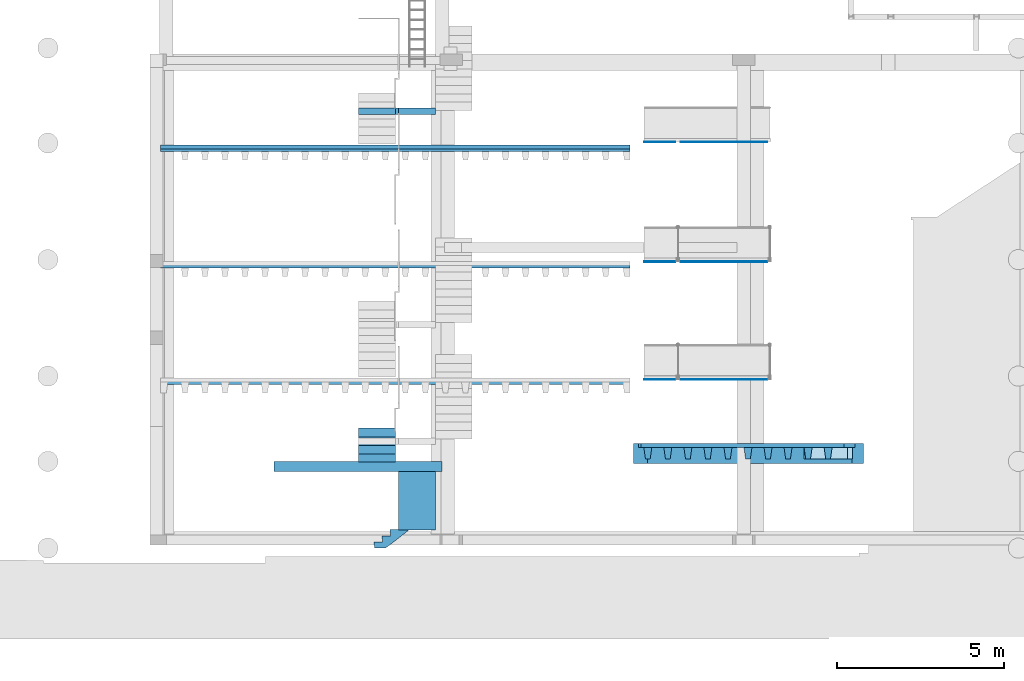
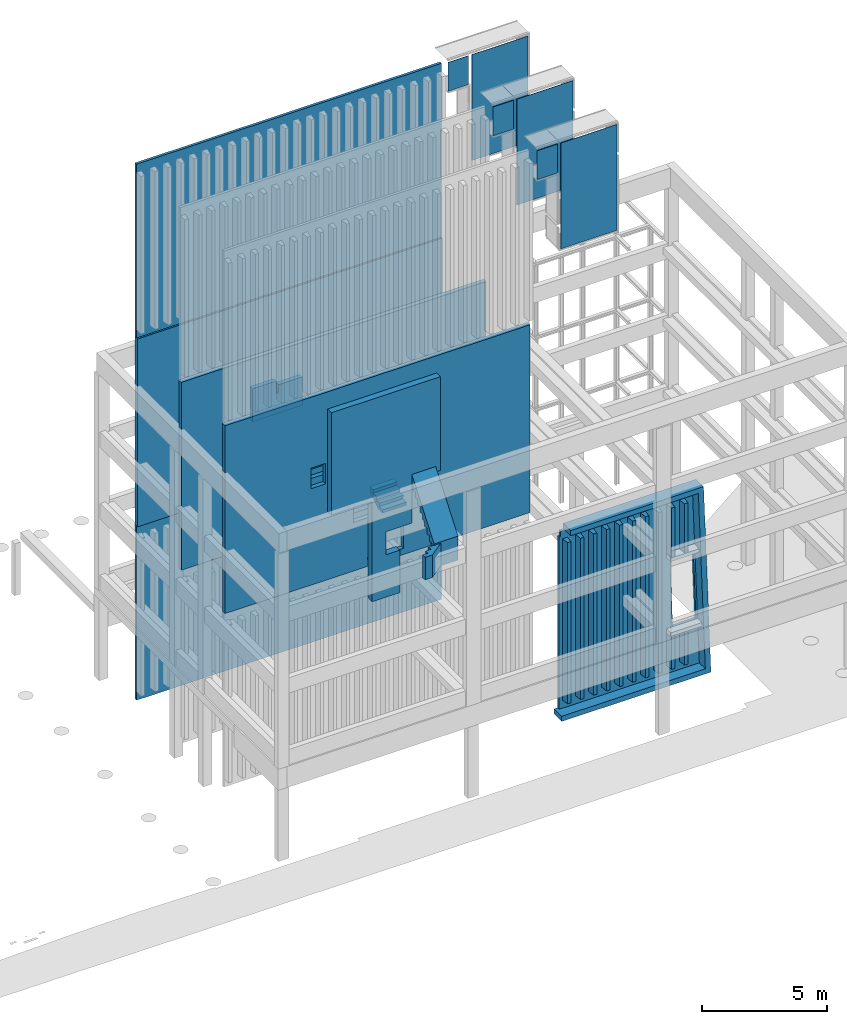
# One storey, part 4 of 15: 29 slabs, 2 stairs.
"""IFC2X3 building model written with IfcOpenShell, lengths in metres."""

from ifc_helpers import new_model, entity, si_unit, converted_unit, derived_unit, money_unit, direction, frame, origin_with_axes, place, context, subcontext, project, spatial, faceted_brep, material, type_object, element, save


model = new_model("IFC2X3")

# Units and contexts
model_context = context("Model", 3, precision=1e-05, world=origin_with_axes(), true_north=direction((0.0, 1.0)))
body_context = subcontext(model_context, "Body", "Model", "MODEL_VIEW", scale=1.0)
ifc_project = project(units=[si_unit("LENGTHUNIT", "METRE"), si_unit("AREAUNIT", "SQUARE_METRE"), si_unit("VOLUMEUNIT", "CUBIC_METRE"), si_unit("ABSORBEDDOSEUNIT", "GRAY"), si_unit("AMOUNTOFSUBSTANCEUNIT", "MOLE"), si_unit("DOSEEQUIVALENTUNIT", "SIEVERT"), si_unit("ELECTRICCAPACITANCEUNIT", "FARAD"), si_unit("ELECTRICCHARGEUNIT", "COULOMB"), si_unit("ELECTRICCONDUCTANCEUNIT", "SIEMENS"), si_unit("ELECTRICCURRENTUNIT", "AMPERE"), si_unit("ELECTRICRESISTANCEUNIT", "OHM"), si_unit("ELECTRICVOLTAGEUNIT", "VOLT"), si_unit("ENERGYUNIT", "JOULE"), si_unit("FORCEUNIT", "NEWTON"), si_unit("FREQUENCYUNIT", "HERTZ"), si_unit("ILLUMINANCEUNIT", "LUX"), si_unit("INDUCTANCEUNIT", "HENRY"), si_unit("LUMINOUSFLUXUNIT", "LUMEN"), si_unit("LUMINOUSINTENSITYUNIT", "CANDELA"), si_unit("MAGNETICFLUXDENSITYUNIT", "TESLA"), si_unit("MAGNETICFLUXUNIT", "WEBER"), si_unit("MASSUNIT", "GRAM"), converted_unit("PLANEANGLEUNIT", "degree", entity("IfcReal", 0.0174532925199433), si_unit("PLANEANGLEUNIT", "RADIAN"), dimensions=[0, 0, 0, 0, 0, 0, 0]), si_unit("POWERUNIT", "WATT"), si_unit("PRESSUREUNIT", "PASCAL"), si_unit("RADIOACTIVITYUNIT", "BECQUEREL"), si_unit("SOLIDANGLEUNIT", "STERADIAN"), si_unit("THERMODYNAMICTEMPERATUREUNIT", "KELVIN"), si_unit("TIMEUNIT", "SECOND"), derived_unit("ACCELERATIONUNIT", [(si_unit("LENGTHUNIT", "METRE"), 1), (si_unit("TIMEUNIT", "SECOND"), -2)]), derived_unit("ANGULARVELOCITYUNIT", [(converted_unit("PLANEANGLEUNIT", "degree", entity("IfcReal", 0.0174532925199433), si_unit("PLANEANGLEUNIT", "RADIAN"), dimensions=[0, 0, 0, 0, 0, 0, 0]), 1), (si_unit("TIMEUNIT", "SECOND"), -1)]), derived_unit("CURVATUREUNIT", [(converted_unit("PLANEANGLEUNIT", "degree", entity("IfcReal", 0.0174532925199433), si_unit("PLANEANGLEUNIT", "RADIAN"), dimensions=[0, 0, 0, 0, 0, 0, 0]), 1), (si_unit("LENGTHUNIT", "METRE"), -1)]), derived_unit("DYNAMICVISCOSITYUNIT", [(si_unit("PRESSUREUNIT", "PASCAL"), 1), (si_unit("TIMEUNIT", "SECOND"), 1)]), derived_unit("HEATFLUXDENSITYUNIT", [(si_unit("POWERUNIT", "WATT"), 1), (si_unit("LENGTHUNIT", "METRE"), -2)]), derived_unit("HEATINGVALUEUNIT", [(si_unit("ENERGYUNIT", "JOULE"), 1), (si_unit("MASSUNIT", "GRAM"), -1)]), derived_unit("INTEGERCOUNTRATEUNIT", [(si_unit("TIMEUNIT", "SECOND"), -1)]), derived_unit("IONCONCENTRATIONUNIT", [(si_unit("MASSUNIT", "GRAM"), 1), (si_unit("VOLUMEUNIT", "CUBIC_METRE"), -1)]), derived_unit("ISOTHERMALMOISTURECAPACITYUNIT", [(si_unit("VOLUMEUNIT", "CUBIC_METRE"), 1), (si_unit("MASSUNIT", "GRAM"), -1)]), derived_unit("KINEMATICVISCOSITYUNIT", [(si_unit("AREAUNIT", "SQUARE_METRE"), 1), (si_unit("TIMEUNIT", "SECOND"), -1)]), derived_unit("LINEARFORCEUNIT", [(si_unit("FORCEUNIT", "NEWTON"), 1), (si_unit("LENGTHUNIT", "METRE"), -1)]), derived_unit("LINEARMOMENTUNIT", [(si_unit("FORCEUNIT", "NEWTON"), 1), (si_unit("LENGTHUNIT", "METRE"), -1)]), derived_unit("LINEARSTIFFNESSUNIT", [(si_unit("FORCEUNIT", "NEWTON"), 1), (si_unit("LENGTHUNIT", "METRE"), -1)]), derived_unit("LINEARVELOCITYUNIT", [(si_unit("LENGTHUNIT", "METRE"), 1), (si_unit("TIMEUNIT", "SECOND"), -1)]), derived_unit("LUMINOUSINTENSITYDISTRIBUTIONUNIT", [(si_unit("LUMINOUSINTENSITYUNIT", "CANDELA"), 1), (si_unit("LUMINOUSFLUXUNIT", "LUMEN"), -1)]), derived_unit("MASSDENSITYUNIT", [(si_unit("MASSUNIT", "GRAM"), 1), (si_unit("VOLUMEUNIT", "CUBIC_METRE"), -1)]), derived_unit("MASSFLOWRATEUNIT", [(si_unit("MASSUNIT", "GRAM"), 1), (si_unit("TIMEUNIT", "SECOND"), -1)]), derived_unit("MASSPERLENGTHUNIT", [(si_unit("MASSUNIT", "GRAM"), 1), (si_unit("LENGTHUNIT", "METRE"), -1)]), derived_unit("MODULUSOFELASTICITYUNIT", [(si_unit("FORCEUNIT", "NEWTON"), 1), (si_unit("AREAUNIT", "SQUARE_METRE"), -1)]), derived_unit("MODULUSOFLINEARSUBGRADEREACTIONUNIT", [(si_unit("FORCEUNIT", "NEWTON"), 1), (si_unit("LENGTHUNIT", "METRE"), -2)]), derived_unit("MODULUSOFROTATIONALSUBGRADEREACTIONUNIT", [(si_unit("FORCEUNIT", "NEWTON"), 1), (si_unit("LENGTHUNIT", "METRE"), 1)]), derived_unit("MODULUSOFSUBGRADEREACTIONUNIT", [(si_unit("FORCEUNIT", "NEWTON"), 1), (si_unit("VOLUMEUNIT", "CUBIC_METRE"), -1)]), derived_unit("MOISTUREDIFFUSIVITYUNIT", [(si_unit("VOLUMEUNIT", "CUBIC_METRE"), 1), (si_unit("TIMEUNIT", "SECOND"), -1)]), derived_unit("MOLECULARWEIGHTUNIT", [(si_unit("MASSUNIT", "GRAM"), 1), (si_unit("AMOUNTOFSUBSTANCEUNIT", "MOLE"), -1)]), derived_unit("PLANARFORCEUNIT", [(si_unit("FORCEUNIT", "NEWTON"), 1), (si_unit("LENGTHUNIT", "METRE"), -2)]), derived_unit("ROTATIONALFREQUENCYUNIT", [(si_unit("TIMEUNIT", "SECOND"), -1)]), derived_unit("ROTATIONALMASSUNIT", [(si_unit("MASSUNIT", "GRAM"), 1), (si_unit("LENGTHUNIT", "METRE"), 2)]), derived_unit("ROTATIONALSTIFFNESSUNIT", [(si_unit("FORCEUNIT", "NEWTON"), 1), (si_unit("LENGTHUNIT", "METRE"), 1), (converted_unit("PLANEANGLEUNIT", "degree", entity("IfcReal", 0.0174532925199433), si_unit("PLANEANGLEUNIT", "RADIAN"), dimensions=[0, 0, 0, 0, 0, 0, 0]), -1)]), derived_unit("SECTIONAREAINTEGRALUNIT", [(si_unit("LENGTHUNIT", "METRE"), 5)]), derived_unit("SECTIONMODULUSUNIT", [(si_unit("LENGTHUNIT", "METRE"), 3)]), derived_unit("SHEARMODULUSUNIT", [(si_unit("FORCEUNIT", "NEWTON"), 1), (si_unit("AREAUNIT", "SQUARE_METRE"), -1)]), derived_unit("SOUNDPOWERUNIT", [(si_unit("ENERGYUNIT", "JOULE"), 1), (si_unit("TIMEUNIT", "SECOND"), -1)]), derived_unit("SPECIFICHEATCAPACITYUNIT", [(si_unit("FORCEUNIT", "NEWTON"), 1), (si_unit("MASSUNIT", "GRAM"), -1), (si_unit("THERMODYNAMICTEMPERATUREUNIT", "KELVIN"), -1)]), derived_unit("TEMPERATUREGRADIENTUNIT", [(si_unit("THERMODYNAMICTEMPERATUREUNIT", "KELVIN"), 1), (si_unit("LENGTHUNIT", "METRE"), -1)]), derived_unit("THERMALADMITTANCEUNIT", [(si_unit("POWERUNIT", "WATT"), 1), (si_unit("AREAUNIT", "SQUARE_METRE"), -1), (si_unit("THERMODYNAMICTEMPERATUREUNIT", "KELVIN"), -1)]), derived_unit("THERMALCONDUCTANCEUNIT", [(si_unit("POWERUNIT", "WATT"), 1), (si_unit("LENGTHUNIT", "METRE"), -1), (si_unit("THERMODYNAMICTEMPERATUREUNIT", "KELVIN"), -1)]), derived_unit("THERMALEXPANSIONCOEFFICIENTUNIT", [(si_unit("THERMODYNAMICTEMPERATUREUNIT", "KELVIN"), -1)]), derived_unit("THERMALRESISTANCEUNIT", [(si_unit("AREAUNIT", "SQUARE_METRE"), 1), (si_unit("POWERUNIT", "WATT"), -1)]), derived_unit("THERMALTRANSMITTANCEUNIT", [(si_unit("POWERUNIT", "WATT"), 1), (si_unit("AREAUNIT", "SQUARE_METRE"), -1), (si_unit("THERMODYNAMICTEMPERATUREUNIT", "KELVIN"), -1)]), derived_unit("TORQUEUNIT", [(si_unit("FORCEUNIT", "NEWTON"), 1), (si_unit("LENGTHUNIT", "METRE"), 1)]), derived_unit("VAPORPERMEABILITYUNIT", [(si_unit("MASSUNIT", "GRAM"), 1), (si_unit("TIMEUNIT", "SECOND"), -1)]), derived_unit("VOLUMETRICFLOWRATEUNIT", [(si_unit("VOLUMEUNIT", "CUBIC_METRE"), 1), (si_unit("TIMEUNIT", "SECOND"), -1)]), derived_unit("WARPINGCONSTANTUNIT", [(si_unit("LENGTHUNIT", "METRE"), 6)]), derived_unit("WARPINGMOMENTUNIT", [(si_unit("FORCEUNIT", "NEWTON"), 1), (si_unit("LENGTHUNIT", "METRE"), 2)]), money_unit("GBP")], contexts=[model_context])

# Site, building, storey
site_placement = place(None, origin_with_axes())
site = spatial("IfcSite", under=ifc_project, at=site_placement, Name="Site", CompositionType="ELEMENT")
building_placement = place(site_placement, origin_with_axes())
building = spatial("IfcBuilding", under=site, at=building_placement, Name="Building01", CompositionType="ELEMENT")
storey_placement = place(building_placement, origin_with_axes())
storey = spatial("IfcBuildingStorey", under=building, at=storey_placement, Name="GF", CompositionType="ELEMENT", Elevation=0.0)

# Slabs
ifc_material_1 = material(Name="A_BSUK_Slabs")
slab_type = type_object("IfcSlabType", Name="A-FloorsSlabs A_BSUK_Slabs", PredefinedType="FLOOR")
for number, where, z_axis, x_axis, name in (
    (1, (15.490006, 3.015, 0.845327), (0.0, 1.0, 0.0), (0.0, 0.0, 1.0), "A-FloorsSlabs A_BSUK_Slabs"),
    (2, (14.890006, 3.015, 0.845327), (0.0, 1.0, 0.0), (0.0, 0.0, 1.0), "A-FloorsSlabs A_BSUK_Slabs"),
    (3, (16.090006, 3.015, 0.845327), (0.0, 1.0, 0.0), (0.0, 0.0, 1.0), "A-FloorsSlabs A_BSUK_Slabs"),
    (4, (16.690006, 3.015, 0.845327), (0.0, 1.0, 0.0), (0.0, 0.0, 1.0), "A-FloorsSlabs A_BSUK_Slabs"),
    (5, (17.890006, 3.015, 0.845327), (0.0, 1.0, 0.0), (0.0, 0.0, 1.0), "A-FloorsSlabs A_BSUK_Slabs"),
    (6, (18.490006, 3.015, 0.845327), (0.0, 1.0, 0.0), (0.0, 0.0, 1.0), "A-FloorsSlabs A_BSUK_Slabs"),
    (7, (19.090006, 3.015, 0.845327), (0.0, 1.0, 0.0), (0.0, 0.0, 1.0), "A-FloorsSlabs A_BSUK_Slabs"),
):
    element("IfcSlab", number, at=place(storey_placement, frame(where, z_axis=z_axis, x_axis=x_axis)), inside=storey, type_object=slab_type, material=ifc_material_1, Name=name, ObjectType="A-FloorsSlabs A_BSUK_Slabs", context=body_context, shape_type="Brep", body=[
        faceted_brep([(-0.054648, 0.048571, -0.34), (7.807711, 0.048571, -0.34), (7.807711, 0.0, 0.0), (-0.054648, 0.0, 0.0), (-0.054648, 0.191429, -0.34), (7.807711, 0.191429, -0.34), (-0.054648, 0.24, 0.0), (7.807711, 0.24, 0.0)], [[[0, 1, 2, 3]], [[4, 5, 1, 0]], [[6, 7, 5, 4]], [[3, 2, 7, 6]], [[1, 5, 7, 2]], [[3, 6, 4, 0]]]),
    ])
slab_1_placement = place(storey_placement, frame((19.690006, 3.015, 1.217261), z_axis=(0.0, 1.0, 0.0), x_axis=(0.0, 0.0, 1.0)))
element("IfcSlab", 8, at=slab_1_placement, inside=storey, type_object=slab_type, material=ifc_material_1, Name="A-FloorsSlabs A_BSUK_Slabs", ObjectType="A-FloorsSlabs A_BSUK_Slabs", context=body_context, shape_type="Brep", body=[
    faceted_brep([(5.016598, 0.048571, -0.34), (7.435777, 0.048571, -0.34), (7.435777, 0.0, 0.0), (5.016598, 0.0, 0.0), (5.016598, 0.191429, -0.34), (7.435777, 0.191429, -0.34), (5.016598, 0.24, 0.0), (7.435777, 0.24, 0.0)], [[[0, 1, 2, 3]], [[4, 5, 1, 0]], [[6, 7, 5, 4]], [[3, 2, 7, 6]], [[1, 5, 7, 2]], [[3, 6, 4, 0]]]),
])
slab_2_placement = place(storey_placement, frame((19.690006, 3.015, -4.445914), z_axis=(0.0, 1.0, 0.0), x_axis=(0.0, 0.0, 1.0)))
element("IfcSlab", 9, at=slab_2_placement, inside=storey, type_object=slab_type, material=ifc_material_1, Name="A-FloorsSlabs A_BSUK_Slabs", ObjectType="A-FloorsSlabs A_BSUK_Slabs", context=body_context, shape_type="Brep", body=[
    faceted_brep([(5.236593, 0.048571, -0.34), (6.85867, 0.048571, -0.34), (6.85867, 0.0, 0.0), (5.236593, 0.0, 0.0), (5.236593, 0.191429, -0.34), (6.85867, 0.191429, -0.34), (5.236593, 0.24, 0.0), (6.85867, 0.24, 0.0)], [[[0, 1, 2, 3]], [[4, 5, 1, 0]], [[6, 7, 5, 4]], [[3, 2, 7, 6]], [[1, 5, 7, 2]], [[3, 6, 4, 0]]]),
])
slab_3_placement = place(storey_placement, frame((12.413978, 3.015, 2.584185), z_axis=(0.0, 1.0, 0.0), x_axis=(1.0, 0.0, 0.0)))
element("IfcSlab", 10, at=slab_3_placement, inside=storey, type_object=slab_type, material=ifc_material_1, Name="A-FloorsSlabs A_BSUK_Slabs", ObjectType="A-FloorsSlabs A_BSUK_Slabs", context=body_context, shape_type="Brep", body=[
    faceted_brep([(7.276028, 0.0, -0.34), (8.721302, 0.0, -0.34), (8.721302, 0.0, 0.0), (7.276028, 0.0, 0.0), (7.276028, 0.171429, -0.34), (8.721302, 0.171429, -0.34), (7.276028, 0.22, 0.0), (8.721302, 0.22, 0.0)], [[[0, 1, 2, 3]], [[4, 5, 1, 0]], [[6, 7, 5, 4]], [[3, 2, 7, 6]], [[1, 5, 7, 2]], [[3, 6, 4, 0]]]),
])
slab_4_placement = place(storey_placement, frame((12.413978, 3.015, 6.06243), z_axis=(0.0, 1.0, 0.0), x_axis=(-1.0, 0.0, 0.0)))
element("IfcSlab", 11, at=slab_4_placement, inside=storey, type_object=slab_type, material=ifc_material_1, Name="A-FloorsSlabs A_BSUK_Slabs", ObjectType="A-FloorsSlabs A_BSUK_Slabs", context=body_context, shape_type="Brep", body=[
    faceted_brep([(-7.276028, 0.0, 0.0), (-8.582546, 0.0, 0.0), (-8.582546, 0.0, -0.34), (-7.276028, 0.0, -0.34), (-8.582546, 0.171429, -0.34), (-7.276028, 0.171429, -0.34), (-8.582546, 0.22, 0.0), (-7.276028, 0.22, 0.0)], [[[0, 1, 2, 3]], [[3, 2, 4, 5]], [[5, 4, 6, 7]], [[7, 6, 1, 0]], [[1, 6, 4, 2]], [[3, 5, 7, 0]]]),
])
slab_5_placement = place(storey_placement, frame((17.290006, 3.015, 0.845327), z_axis=(0.0, 1.0, 0.0), x_axis=(0.0, 0.0, 1.0)))
element("IfcSlab", 12, at=slab_5_placement, inside=storey, type_object=slab_type, material=ifc_material_1, Name="A-FloorsSlabs A_BSUK_Slabs", ObjectType="A-FloorsSlabs A_BSUK_Slabs", context=body_context, shape_type="Brep", body=[
    faceted_brep([(-0.054648, 0.048571, -0.34), (7.807711, 0.048571, -0.34), (7.807711, 0.0, 0.0), (-0.054648, 0.0, 0.0), (-0.054648, 0.191429, -0.34), (7.807711, 0.191429, -0.34), (-0.054648, 0.24, 0.0), (7.807711, 0.24, 0.0)], [[[0, 1, 2, 3]], [[4, 5, 1, 0]], [[6, 7, 5, 4]], [[3, 2, 7, 6]], [[1, 5, 7, 2]], [[3, 6, 4, 0]]]),
])
slab_6_placement = place(storey_placement, frame((20.290006, 3.015, -4.445914), z_axis=(0.0, 1.0, 0.0), x_axis=(0.0, 0.0, 1.0)))
element("IfcSlab", 13, at=slab_6_placement, inside=storey, type_object=slab_type, material=ifc_material_1, Name="A-FloorsSlabs A_BSUK_Slabs", ObjectType="A-FloorsSlabs A_BSUK_Slabs", context=body_context, shape_type="Brep", body=[
    faceted_brep([(5.236593, 0.048571, -0.34), (6.85867, 0.048571, -0.34), (6.85867, 0.0, 0.0), (5.236593, 0.0, 0.0), (5.236593, 0.191429, -0.34), (6.85867, 0.191429, -0.34), (5.236593, 0.24, 0.0), (6.85867, 0.24, 0.0)], [[[0, 1, 2, 3]], [[4, 5, 1, 0]], [[6, 7, 5, 4]], [[3, 2, 7, 6]], [[1, 5, 7, 2]], [[3, 6, 4, 0]]]),
])
slab_7_placement = place(storey_placement, frame((20.290006, 3.015, 1.217261), z_axis=(0.0, 1.0, 0.0), x_axis=(0.0, 0.0, 1.0)))
element("IfcSlab", 14, at=slab_7_placement, inside=storey, type_object=slab_type, material=ifc_material_1, Name="A-FloorsSlabs A_BSUK_Slabs", ObjectType="A-FloorsSlabs A_BSUK_Slabs", context=body_context, shape_type="Brep", body=[
    faceted_brep([(5.016598, 0.048571, -0.34), (7.435777, 0.048571, -0.34), (7.435777, 0.0, 0.0), (5.016598, 0.0, 0.0), (5.016598, 0.191429, -0.34), (7.435777, 0.191429, -0.34), (5.016598, 0.24, 0.0), (7.435777, 0.24, 0.0)], [[[0, 1, 2, 3]], [[4, 5, 1, 0]], [[6, 7, 5, 4]], [[3, 2, 7, 6]], [[1, 5, 7, 2]], [[3, 6, 4, 0]]]),
])
placement = place(storey_placement, origin_with_axes())
element("IfcSlab", 15, at=placement, inside=storey, type_object=slab_type, material=ifc_material_1, Name="A-FloorsSlabs A_BSUK_Slabs", ObjectType="CompoundSlabLeaf", context=body_context, shape_type="Brep", body=[
    faceted_brep([(14.73, 3.135, 8.79), (14.800435, 3.135, 8.79), (14.8, 3.135, 9.053038), (20.886536, 3.135, 9.053038), (21.207883, 3.135, 0.390679), (14.73, 3.135, 0.390679), (14.73, 3.135, 0.6), (14.73001, 3.135, 0.6), (19.979174, 3.135, 2.584185), (21.053624, 3.135, 2.600888), (20.925208, 3.135, 6.062512), (19.859391, 3.135, 6.06243), (14.73001, 3.015, 0.6), (14.73, 3.015, 0.6), (14.73, 3.015, 0.390679), (21.207883, 3.015, 0.390679), (20.886536, 3.015, 9.053038), (14.8, 3.015, 9.053038), (14.800435, 3.015, 8.79), (14.73, 3.015, 8.79), (19.979174, 3.015, 2.584185), (19.859391, 3.015, 6.06243), (20.925208, 3.015, 6.062512), (21.053624, 3.015, 2.600888)], [[[0, 1, 2, 3, 4, 5, 6, 7], [8, 9, 10, 11]], [[12, 13, 14, 15, 16, 17, 18, 19], [20, 21, 22, 23]], [[19, 0, 7, 12]], [[18, 1, 0, 19]], [[17, 2, 1, 18]], [[16, 3, 2, 17]], [[15, 4, 3, 16]], [[14, 5, 4, 15]], [[13, 6, 5, 14]], [[12, 7, 6, 13]], [[20, 23, 9, 8]], [[21, 20, 8, 11]], [[22, 21, 11, 10]], [[23, 22, 10, 9]]]),
])
element("IfcSlab", 16, at=placement, inside=storey, type_object=slab_type, material=ifc_material_1, Name="A-FloorsSlabs A_BSUK_Slabs", ObjectType="CompoundSlabLeaf", context=body_context, shape_type="Brep", body=[
    faceted_brep([(14.580006, 2.535, 0.390679), (14.580006, 3.135, 0.390679), (14.580006, 3.135, 0.140679), (14.580006, 2.535, 0.140679), (21.207883, 2.535, 0.390679), (21.207883, 3.135, 0.390679), (20.886536, 2.535, 9.053038), (20.886536, 3.135, 9.053038), (14.999999, 2.535, 9.053038), (14.999999, 3.135, 9.053038), (14.999999, 2.535, 9.303038), (14.999999, 3.135, 9.303038), (21.127455, 2.535, 9.303038), (21.127455, 3.135, 9.303038), (21.46733, 2.535, 0.140679), (21.46733, 3.135, 0.140679)], [[[0, 1, 2, 3]], [[4, 5, 1, 0]], [[6, 7, 5, 4]], [[8, 9, 7, 6]], [[10, 11, 9, 8]], [[12, 13, 11, 10]], [[14, 15, 13, 12]], [[3, 2, 15, 14]], [[1, 5, 7, 9, 11, 13, 15, 2]], [[3, 14, 12, 10, 8, 6, 4, 0]]]),
])
element("IfcSlab", 17, at=placement, inside=storey, type_object=slab_type, material=ifc_material_1, Name="A-FloorsSlabs A_BSUK_Slabs", ObjectType="CompoundSlabLeaf", context=body_context, shape_type="Brep", body=[
    faceted_brep([(8.65, 2.3, 14.535), (8.65, 2.6, 14.535), (8.852854, 2.6, 14.535), (8.852854, 2.3, 14.535), (8.65, 2.3, 14.8), (8.65, 2.6, 14.8), (7.55, 2.3, 14.8), (7.55, 2.6, 14.8), (7.55, 2.3, 12.4238), (7.55, 2.6, 12.4238), (6.35, 2.3, 12.42395), (6.35, 2.6, 12.42395), (6.35, 2.3, 11.3), (6.35, 2.6, 11.3), (6.98, 2.3, 11.3), (6.98, 2.6, 11.3), (6.98, 2.3, 9.23), (6.98, 2.6, 9.23), (5.69305, 2.3, 9.23), (5.69305, 2.6, 9.23), (5.69305, 2.3, 14.121434), (5.69305, 2.6, 14.121434), (3.823962, 2.3, 14.121434), (3.823962, 2.6, 14.121434), (3.823962, 2.3, 19.102776), (3.823962, 2.6, 19.102776), (6.610938, 2.3, 19.102776), (6.610938, 2.6, 19.102776), (8.852854, 2.3, 19.102776), (8.852854, 2.6, 19.102776)], [[[0, 1, 2, 3]], [[4, 5, 1, 0]], [[6, 7, 5, 4]], [[8, 9, 7, 6]], [[10, 11, 9, 8]], [[12, 13, 11, 10]], [[14, 15, 13, 12]], [[16, 17, 15, 14]], [[18, 19, 17, 16]], [[20, 21, 19, 18]], [[22, 23, 21, 20]], [[24, 25, 23, 22]], [[26, 27, 25, 24]], [[28, 29, 27, 26]], [[3, 2, 29, 28]], [[1, 5, 7, 9, 11, 13, 15, 17, 19, 21, 23, 25, 27, 29, 2]], [[3, 28, 26, 24, 22, 20, 18, 16, 14, 12, 10, 8, 6, 4, 0]]]),
])
element("IfcSlab", 18, at=placement, inside=storey, type_object=slab_type, material=ifc_material_1, Name="A-FloorsSlabs A_BSUK_Slabs", ObjectType="CompoundSlabLeaf", context=body_context, shape_type="Brep", body=[
    faceted_brep([(14.48, 8.59, 8.925), (0.42, 8.59, 8.925), (0.42, 8.59, 18.085), (14.48, 8.59, 18.085), (5.05385, 8.59, 13.375), (4.389428, 8.59, 13.375), (4.389428, 8.59, 12.375), (5.05385, 8.59, 12.375), (6.35, 8.59, 14.059316), (6.35, 8.59, 11.3), (8.65, 8.59, 11.3), (8.65, 8.59, 14.859584), (7.454282, 8.59, 14.859584), (7.454282, 8.59, 14.059316), (5.05385, 8.59, 14.625), (4.389428, 8.59, 14.625), (4.389428, 8.59, 13.625), (5.05385, 8.59, 13.625), (8.65, 8.59, 11.13), (6.98, 8.59, 11.13), (6.98, 8.59, 9.23), (8.65, 8.59, 9.23), (14.48, 8.39, 18.085), (0.42, 8.39, 18.085), (0.42, 8.39, 8.925), (14.48, 8.39, 8.925), (5.05385, 8.39, 14.625), (5.05385, 8.39, 13.625), (4.389428, 8.39, 13.625), (4.389428, 8.39, 14.625), (5.05385, 8.39, 13.375), (5.05385, 8.39, 12.375), (4.389428, 8.39, 12.375), (4.389428, 8.39, 13.375), (6.35, 8.39, 14.059316), (7.454282, 8.39, 14.059316), (7.454282, 8.39, 14.859584), (8.65, 8.39, 14.859584), (8.65, 8.39, 11.3), (6.35, 8.39, 11.3), (8.65, 8.39, 11.13), (8.65, 8.39, 9.23), (6.98, 8.39, 9.23), (6.98, 8.39, 11.13)], [[[0, 1, 2, 3], [4, 5, 6, 7], [8, 9, 10, 11, 12, 13], [14, 15, 16, 17], [18, 19, 20, 21]], [[22, 23, 24, 25], [26, 27, 28, 29], [30, 31, 32, 33], [34, 35, 36, 37, 38, 39], [40, 41, 42, 43]], [[35, 13, 12, 36]], [[25, 0, 3, 22]], [[24, 1, 0, 25]], [[23, 2, 1, 24]], [[22, 3, 2, 23]], [[17, 27, 26, 14]], [[14, 26, 29, 15]], [[15, 29, 28, 16]], [[16, 28, 27, 17]], [[7, 31, 30, 4]], [[4, 30, 33, 5]], [[5, 33, 32, 6]], [[6, 32, 31, 7]], [[10, 38, 37, 11]], [[11, 37, 36, 12]], [[9, 39, 38, 10]], [[8, 34, 39, 9]], [[13, 35, 34, 8]], [[21, 41, 40, 18]], [[18, 40, 43, 19]], [[19, 43, 42, 20]], [[20, 42, 41, 21]]]),
])
element("IfcSlab", 19, at=placement, inside=storey, type_object=slab_type, material=ifc_material_1, Name="A-FloorsSlabs A_BSUK_Slabs", ObjectType="CompoundSlabLeaf", context=body_context, shape_type="Brep", body=[
    faceted_brep([(14.48, 12.08, 8.925), (0.42, 12.08, 8.925), (0.42, 12.08, 18.085), (14.48, 12.08, 18.085), (5.05385, 12.08, 13.375), (4.389428, 12.08, 13.375), (4.389428, 12.08, 12.375), (5.05385, 12.08, 12.375), (6.35, 12.08, 14.059317), (6.35, 12.08, 11.3), (8.65, 12.08, 11.3), (8.65, 12.08, 14.897097), (7.55, 12.08, 14.897097), (7.55, 12.08, 14.059317), (5.05385, 12.08, 14.625), (4.389428, 12.08, 14.625), (4.389428, 12.08, 13.625), (5.05385, 12.08, 13.625), (8.65, 12.08, 11.13), (6.98, 12.08, 11.13), (6.98, 12.08, 9.23), (8.65, 12.08, 9.23), (14.48, 11.88, 18.085), (0.42, 11.88, 18.085), (0.42, 11.88, 8.925), (14.48, 11.88, 8.925), (5.05385, 11.88, 14.625), (5.05385, 11.88, 13.625), (4.389428, 11.88, 13.625), (4.389428, 11.88, 14.625), (5.05385, 11.88, 13.375), (5.05385, 11.88, 12.375), (4.389428, 11.88, 12.375), (4.389428, 11.88, 13.375), (6.35, 11.88, 14.059317), (7.55, 11.88, 14.059317), (7.55, 11.88, 14.897097), (8.65, 11.88, 14.897097), (8.65, 11.88, 11.3), (6.35, 11.88, 11.3), (8.65, 11.88, 11.13), (8.65, 11.88, 9.23), (6.98, 11.88, 9.23), (6.98, 11.88, 11.13)], [[[0, 1, 2, 3], [4, 5, 6, 7], [8, 9, 10, 11, 12, 13], [14, 15, 16, 17], [18, 19, 20, 21]], [[22, 23, 24, 25], [26, 27, 28, 29], [30, 31, 32, 33], [34, 35, 36, 37, 38, 39], [40, 41, 42, 43]], [[35, 13, 12, 36]], [[25, 0, 3, 22]], [[24, 1, 0, 25]], [[23, 2, 1, 24]], [[22, 3, 2, 23]], [[17, 27, 26, 14]], [[14, 26, 29, 15]], [[15, 29, 28, 16]], [[16, 28, 27, 17]], [[7, 31, 30, 4]], [[4, 30, 33, 5]], [[5, 33, 32, 6]], [[6, 32, 31, 7]], [[10, 38, 37, 11]], [[11, 37, 36, 12]], [[9, 39, 38, 10]], [[8, 34, 39, 9]], [[13, 35, 34, 8]], [[21, 41, 40, 18]], [[18, 40, 43, 19]], [[19, 43, 42, 20]], [[20, 42, 41, 21]]]),
])
element("IfcSlab", 20, at=placement, inside=storey, type_object=slab_type, material=ifc_material_1, Name="A-FloorsSlabs A_BSUK_Slabs", ObjectType="CompoundSlabLeaf", context=body_context, shape_type="Brep", body=[
    faceted_brep([(14.48, 11.96, 0.42), (14.48, 12.08, 0.42), (14.48, 12.08, 8.925), (14.48, 11.96, 8.925), (0.42, 11.96, 0.42), (0.42, 12.08, 0.42), (0.42, 11.96, 8.925), (0.42, 12.08, 8.925)], [[[0, 1, 2, 3]], [[4, 5, 1, 0]], [[6, 7, 5, 4]], [[3, 2, 7, 6]], [[1, 5, 7, 2]], [[3, 6, 4, 0]]]),
])
element("IfcSlab", 21, at=placement, inside=storey, type_object=slab_type, material=ifc_material_1, Name="A-FloorsSlabs A_BSUK_Slabs", ObjectType="CompoundSlabLeaf", context=body_context, shape_type="Brep", body=[
    faceted_brep([(14.48, 11.96, 18.085), (14.48, 12.08, 18.085), (14.48, 12.08, 26.56), (14.48, 11.96, 26.56), (0.42, 11.96, 18.085), (0.42, 12.08, 18.085), (0.42, 11.96, 26.56), (0.42, 12.08, 26.56)], [[[0, 1, 2, 3]], [[4, 5, 1, 0]], [[6, 7, 5, 4]], [[3, 2, 7, 6]], [[1, 5, 7, 2]], [[3, 6, 4, 0]]]),
])
element("IfcSlab", 22, at=placement, inside=storey, type_object=slab_type, material=ifc_material_1, Name="A-FloorsSlabs A_BSUK_Slabs", ObjectType="CompoundSlabLeaf", context=body_context, shape_type="Brep", body=[
    faceted_brep([(14.48, 5.1, 8.925), (0.42, 5.1, 8.925), (0.42, 5.1, 18.085), (14.48, 5.1, 18.085), (5.05385, 5.1, 14.625), (4.389428, 5.1, 14.625), (4.389428, 5.1, 13.625), (5.05385, 5.1, 13.625), (6.35, 5.1, 14.059317), (6.35, 5.1, 11.3), (8.65, 5.1, 11.3), (8.65, 5.1, 14.859584), (7.454191, 5.1, 14.859584), (7.454191, 5.1, 14.059317), (8.65, 5.1, 11.13), (6.98, 5.1, 11.13), (6.98, 5.1, 9.23), (8.65, 5.1, 9.23), (14.48, 4.9, 18.085), (0.42, 4.9, 18.085), (0.42, 4.9, 8.925), (14.48, 4.9, 8.925), (5.05385, 4.9, 14.625), (5.05385, 4.9, 13.625), (4.389428, 4.9, 13.625), (4.389428, 4.9, 14.625), (6.35, 4.9, 14.059317), (7.454191, 4.9, 14.059317), (7.454191, 4.9, 14.859584), (8.65, 4.9, 14.859584), (8.65, 4.9, 11.3), (6.35, 4.9, 11.3), (8.65, 4.9, 11.13), (8.65, 4.9, 9.23), (6.98, 4.9, 9.23), (6.98, 4.9, 11.13)], [[[0, 1, 2, 3], [4, 5, 6, 7], [8, 9, 10, 11, 12, 13], [14, 15, 16, 17]], [[18, 19, 20, 21], [22, 23, 24, 25], [26, 27, 28, 29, 30, 31], [32, 33, 34, 35]], [[27, 13, 12, 28]], [[21, 0, 3, 18]], [[20, 1, 0, 21]], [[19, 2, 1, 20]], [[18, 3, 2, 19]], [[7, 23, 22, 4]], [[4, 22, 25, 5]], [[5, 25, 24, 6]], [[6, 24, 23, 7]], [[10, 30, 29, 11]], [[11, 29, 28, 12]], [[9, 31, 30, 10]], [[8, 26, 31, 9]], [[13, 27, 26, 8]], [[17, 33, 32, 14]], [[14, 32, 35, 15]], [[15, 35, 34, 16]], [[16, 34, 33, 17]]]),
])
ifc_material_2 = material(Name="A_BSUK_StainlessSteelRailingSystems")
element("IfcSlab", 23, at=placement, inside=storey, type_object=slab_type, material=ifc_material_2, Name="A-FloorsSlabs A_BSUK_Slabs", ObjectType="CompoundSlabLeaf", context=body_context, shape_type="Brep", body=[
    faceted_brep([(18.584781, 8.567442, 21.168834), (18.584781, 8.587442, 21.168834), (18.584781, 8.587442, 26.332635), (18.584781, 8.567442, 26.332635), (15.994581, 8.567442, 21.168834), (15.994581, 8.587442, 21.168834), (15.994581, 8.567442, 26.332635), (15.994581, 8.587442, 26.332635)], [[[0, 1, 2, 3]], [[4, 5, 1, 0]], [[6, 7, 5, 4]], [[3, 2, 7, 6]], [[1, 5, 7, 2]], [[3, 6, 4, 0]]]),
])
element("IfcSlab", 24, at=placement, inside=storey, type_object=slab_type, material=ifc_material_2, Name="A-FloorsSlabs A_BSUK_Slabs", ObjectType="CompoundSlabLeaf", context=body_context, shape_type="Brep", body=[
    faceted_brep([(15.837181, 8.567442, 24.927235), (15.837181, 8.587442, 24.927235), (15.837181, 8.587442, 26.332635), (15.837181, 8.567442, 26.332635), (14.9, 8.567442, 24.927235), (14.9, 8.587442, 24.927235), (14.9, 8.567442, 26.332635), (14.9, 8.587442, 26.332635)], [[[0, 1, 2, 3]], [[4, 5, 1, 0]], [[6, 7, 5, 4]], [[3, 2, 7, 6]], [[1, 5, 7, 2]], [[3, 6, 4, 0]]]),
])
element("IfcSlab", 25, at=placement, inside=storey, type_object=slab_type, material=ifc_material_2, Name="A-FloorsSlabs A_BSUK_Slabs", ObjectType="CompoundSlabLeaf", context=body_context, shape_type="Brep", body=[
    faceted_brep([(18.584781, 12.151013, 21.168834), (18.584781, 12.171013, 21.168834), (18.584781, 12.171013, 26.332635), (18.584781, 12.151013, 26.332635), (15.994581, 12.151013, 21.168834), (15.994581, 12.171013, 21.168834), (15.994581, 12.151013, 26.332635), (15.994581, 12.171013, 26.332635)], [[[0, 1, 2, 3]], [[4, 5, 1, 0]], [[6, 7, 5, 4]], [[3, 2, 7, 6]], [[1, 5, 7, 2]], [[3, 6, 4, 0]]]),
])
element("IfcSlab", 26, at=placement, inside=storey, type_object=slab_type, material=ifc_material_2, Name="A-FloorsSlabs A_BSUK_Slabs", ObjectType="CompoundSlabLeaf", context=body_context, shape_type="Brep", body=[
    faceted_brep([(15.837181, 12.151013, 24.927235), (15.837181, 12.171013, 24.927235), (15.837181, 12.171013, 26.332635), (15.837181, 12.151013, 26.332635), (14.9, 12.151013, 24.927235), (14.9, 12.171013, 24.927235), (14.9, 12.151013, 26.332635), (14.9, 12.171013, 26.332635)], [[[0, 1, 2, 3]], [[4, 5, 1, 0]], [[6, 7, 5, 4]], [[3, 2, 7, 6]], [[1, 5, 7, 2]], [[3, 6, 4, 0]]]),
])
element("IfcSlab", 27, at=placement, inside=storey, type_object=slab_type, material=ifc_material_2, Name="A-FloorsSlabs A_BSUK_Slabs", ObjectType="CompoundSlabLeaf", context=body_context, shape_type="Brep", body=[
    faceted_brep([(18.584781, 5.044467, 21.168834), (18.584781, 5.064467, 21.168834), (18.584781, 5.064467, 26.332635), (18.584781, 5.044467, 26.332635), (15.994581, 5.044467, 21.168834), (15.994581, 5.064467, 21.168834), (15.994581, 5.044467, 26.332635), (15.994581, 5.064467, 26.332635)], [[[0, 1, 2, 3]], [[4, 5, 1, 0]], [[6, 7, 5, 4]], [[3, 2, 7, 6]], [[1, 5, 7, 2]], [[3, 6, 4, 0]]]),
])
element("IfcSlab", 28, at=placement, inside=storey, type_object=slab_type, material=ifc_material_2, Name="A-FloorsSlabs A_BSUK_Slabs", ObjectType="CompoundSlabLeaf", context=body_context, shape_type="Brep", body=[
    faceted_brep([(15.837181, 5.044467, 24.927235), (15.837181, 5.064467, 24.927235), (15.837181, 5.064467, 26.332635), (15.837181, 5.044467, 26.332635), (14.9, 5.044467, 24.927235), (14.9, 5.064467, 24.927235), (14.9, 5.044467, 26.332635), (14.9, 5.064467, 26.332635)], [[[0, 1, 2, 3]], [[4, 5, 1, 0]], [[6, 7, 5, 4]], [[3, 2, 7, 6]], [[1, 5, 7, 2]], [[3, 6, 4, 0]]]),
])
element("IfcSlab", 29, at=placement, inside=storey, type_object=slab_type, material=ifc_material_1, Name="A-FloorsSlabs A_BSUK_Slabs", ObjectType="CompoundSlabLeaf", context=body_context, shape_type="Brep", body=[
    faceted_brep([(6.35, 12.98, 11.3), (6.35, 13.18, 11.3), (8.65, 13.18, 11.3), (8.65, 12.98, 11.3), (6.35, 12.98, 12.905859), (6.35, 13.18, 12.905859), (7.450763, 12.98, 12.905859), (7.450763, 13.18, 12.905859), (7.450763, 12.98, 12.2808), (7.450763, 13.18, 12.2808), (7.55, 12.98, 12.2808), (7.55, 13.18, 12.2808), (7.550019, 12.98, 12.691223), (7.550019, 13.18, 12.691223), (8.65, 12.98, 12.691223), (8.65, 13.18, 12.691223)], [[[0, 1, 2, 3]], [[4, 5, 1, 0]], [[6, 7, 5, 4]], [[8, 9, 7, 6]], [[10, 11, 9, 8]], [[12, 13, 11, 10]], [[14, 15, 13, 12]], [[3, 2, 15, 14]], [[1, 5, 7, 9, 11, 13, 15, 2]], [[3, 14, 12, 10, 8, 6, 4, 0]]]),
])

# Stairs
ifc_material_3 = material(Name="S_BSUK_Stairs")
stair_1_placement = place(storey_placement, frame((6.83, 0.0, 11.3), z_axis=(0.0, 1.0, 0.0), x_axis=(0.0, 0.0, 1.0)))
element("IfcStair", 30, at=stair_1_placement, inside=storey, material=ifc_material_3, Name="S-Stairs-ConcreteRC", ObjectType="S-Stairs-ConcreteRC", ShapeType="NOTDEFINED", context=body_context, shape_type="Brep", body=[
    faceted_brep([(1.1, 0.72, 0.542857), (1.1, 0.72, 0.742857), (1.1, 0.695, 0.742857), (1.1, 0.72, 0.557143), (1.1, 0.455, 0.557143), (1.1, 0.48, 0.371429), (1.1, 0.215, 0.371429), (1.1, 0.24, 0.185714), (1.1, -0.025, 0.185714), (1.1, 0.0, 0.0), (1.1, 0.326806, 0.0), (1.1, 1.028345, 0.542857), (0.0, 0.72, 0.542857), (0.0, 1.028345, 0.542857), (0.0, 0.72, 0.742857), (0.0, 0.695, 0.742857), (0.0, 0.72, 0.557143), (0.0, 0.455, 0.557143), (0.0, 0.48, 0.371429), (0.0, 0.215, 0.371429), (0.0, 0.24, 0.185714), (0.0, -0.025, 0.185714), (0.0, 0.0, 0.0), (0.0, 0.326806, 0.0)], [[[0, 1, 2, 3, 4, 5, 6, 7, 8, 9, 10, 11]], [[12, 0, 11, 13]], [[14, 1, 0, 12]], [[15, 2, 1, 14]], [[16, 3, 2, 15]], [[17, 4, 3, 16]], [[18, 5, 4, 17]], [[19, 6, 5, 18]], [[20, 7, 6, 19]], [[21, 8, 7, 20]], [[22, 9, 8, 21]], [[23, 10, 9, 22]], [[13, 11, 10, 23]], [[23, 22, 21, 20, 19, 18, 17, 16, 15, 14, 12, 13]]]),
    faceted_brep([(3.5, 0.72, 2.347114), (3.5, 0.72, 2.6), (3.235, 0.72, 2.6), (3.26, 0.72, 2.414286), (2.995, 0.72, 2.414286), (3.02, 0.72, 2.228571), (2.755, 0.72, 2.228571), (2.78, 0.72, 2.042857), (2.515, 0.72, 2.042857), (2.54, 0.72, 1.857143), (2.275, 0.72, 1.857143), (2.3, 0.72, 1.671429), (2.035, 0.72, 1.671429), (2.06, 0.72, 1.485714), (1.795, 0.72, 1.485714), (1.82, 0.72, 1.3), (1.555, 0.72, 1.3), (1.58, 0.72, 1.114286), (1.315, 0.72, 1.114286), (1.34, 0.72, 0.928571), (1.075, 0.72, 0.928571), (1.1, 0.72, 0.742857), (1.1, 0.72, 0.542857), (1.168345, 0.72, 0.542857), (3.5, 1.82, 2.347114), (1.168345, 1.82, 0.542857), (3.5, 1.82, 2.6), (3.235, 1.82, 2.6), (3.26, 1.82, 2.414286), (2.995, 1.82, 2.414286), (3.02, 1.82, 2.228571), (2.755, 1.82, 2.228571), (2.78, 1.82, 2.042857), (2.515, 1.82, 2.042857), (2.54, 1.82, 1.857143), (2.275, 1.82, 1.857143), (2.3, 1.82, 1.671429), (2.035, 1.82, 1.671429), (2.06, 1.82, 1.485714), (1.795, 1.82, 1.485714), (1.82, 1.82, 1.3), (1.555, 1.82, 1.3), (1.58, 1.82, 1.114286), (1.315, 1.82, 1.114286), (1.34, 1.82, 0.928571), (1.075, 1.82, 0.928571), (1.1, 1.82, 0.742857), (1.1, 1.82, 0.542857)], [[[0, 1, 2, 3, 4, 5, 6, 7, 8, 9, 10, 11, 12, 13, 14, 15, 16, 17, 18, 19, 20, 21, 22, 23]], [[24, 0, 23, 25]], [[26, 1, 0, 24]], [[27, 2, 1, 26]], [[28, 3, 2, 27]], [[29, 4, 3, 28]], [[30, 5, 4, 29]], [[31, 6, 5, 30]], [[32, 7, 6, 31]], [[33, 8, 7, 32]], [[34, 9, 8, 33]], [[35, 10, 9, 34]], [[36, 11, 10, 35]], [[37, 12, 11, 36]], [[38, 13, 12, 37]], [[39, 14, 13, 38]], [[40, 15, 14, 39]], [[41, 16, 15, 40]], [[42, 17, 16, 41]], [[43, 18, 17, 42]], [[44, 19, 18, 43]], [[45, 20, 19, 44]], [[46, 21, 20, 45]], [[47, 22, 21, 46]], [[25, 23, 22, 47]], [[47, 46, 45, 44, 43, 42, 41, 40, 39, 38, 37, 36, 35, 34, 33, 32, 31, 30, 29, 28, 27, 26, 24, 25]]]),
    faceted_brep([(1.1, 0.72, 0.542857), (0.0, 0.72, 0.542857), (0.0, 1.82, 0.542857), (1.1, 1.82, 0.542857), (1.1, 0.72, 0.742857), (1.1, 1.82, 0.742857), (0.0, 0.72, 0.742857), (0.0, 1.82, 0.742857)], [[[0, 1, 2, 3]], [[4, 0, 3, 5]], [[6, 1, 0, 4]], [[7, 2, 1, 6]], [[5, 3, 2, 7]], [[7, 6, 4, 5]]]),
])
stair_2_placement = place(storey_placement, frame((6.35, 2.6, 13.141481), z_axis=(0.0, 1.0, 0.0), x_axis=(0.0, 0.0, 1.0)))
element("IfcStair", 31, at=stair_2_placement, inside=storey, material=ifc_material_3, Name="S-Stairs-ConcreteRC", ObjectType="S-Stairs-ConcreteRC", ShapeType="NOTDEFINED", context=body_context, shape_type="Brep", body=[
    faceted_brep([(0.0, 1.1, 0.0), (0.0, 1.1, 0.348759), (0.455869, 1.1, 1.0), (0.7, 1.1, 1.0), (0.7, 1.1, 0.725), (0.525, 1.1, 0.75), (0.525, 1.1, 0.475), (0.35, 1.1, 0.5), (0.35, 1.1, 0.225), (0.175, 1.1, 0.25), (0.175, 1.1, -0.025), (0.0, 0.0, 0.0), (0.0, 0.0, 0.348759), (0.455869, 0.0, 1.0), (0.7, 0.0, 1.0), (0.7, 0.0, 0.725), (0.525, 0.0, 0.75), (0.525, 0.0, 0.475), (0.35, 0.0, 0.5), (0.35, 0.0, 0.225), (0.175, 0.0, 0.25), (0.175, 0.0, -0.025)], [[[0, 1, 2, 3, 4, 5, 6, 7, 8, 9, 10]], [[11, 12, 1, 0]], [[12, 13, 2, 1]], [[13, 14, 3, 2]], [[14, 15, 4, 3]], [[15, 16, 5, 4]], [[16, 17, 6, 5]], [[17, 18, 7, 6]], [[18, 19, 8, 7]], [[19, 20, 9, 8]], [[20, 21, 10, 9]], [[21, 11, 0, 10]], [[11, 21, 20, 19, 18, 17, 16, 15, 14, 13, 12]]]),
])

save(model, "model.ifc")
